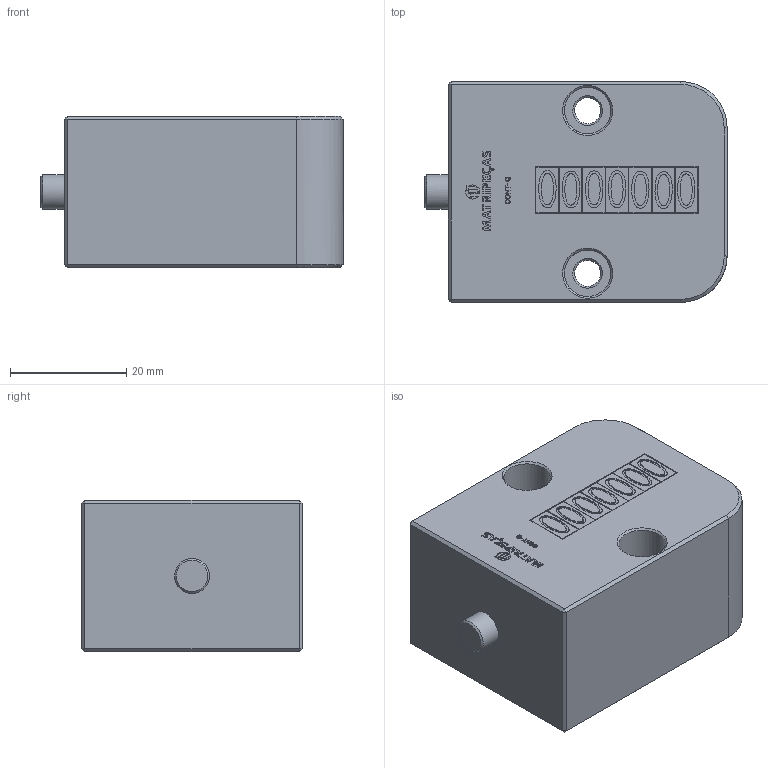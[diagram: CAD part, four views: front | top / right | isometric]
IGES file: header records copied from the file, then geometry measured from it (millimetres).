
Start section: C
Global section: file name: CN050R01.igs; native system: By Siemens PLM Incorporated; preprocessor: XPlus GENERIC/IGES 18.0.17; author: Author; organization: Title; date: 20240807.091901; units: millimetre
Bounding box: 52 x 38 x 26 mm (x, y, z)
Volume: 45381.6 mm3; surface area: 8773.5 mm2
Topology: 1 solids, 1 shells, 325 faces, 806 edges, 532 vertices
Faces by surface type: bspline 325
